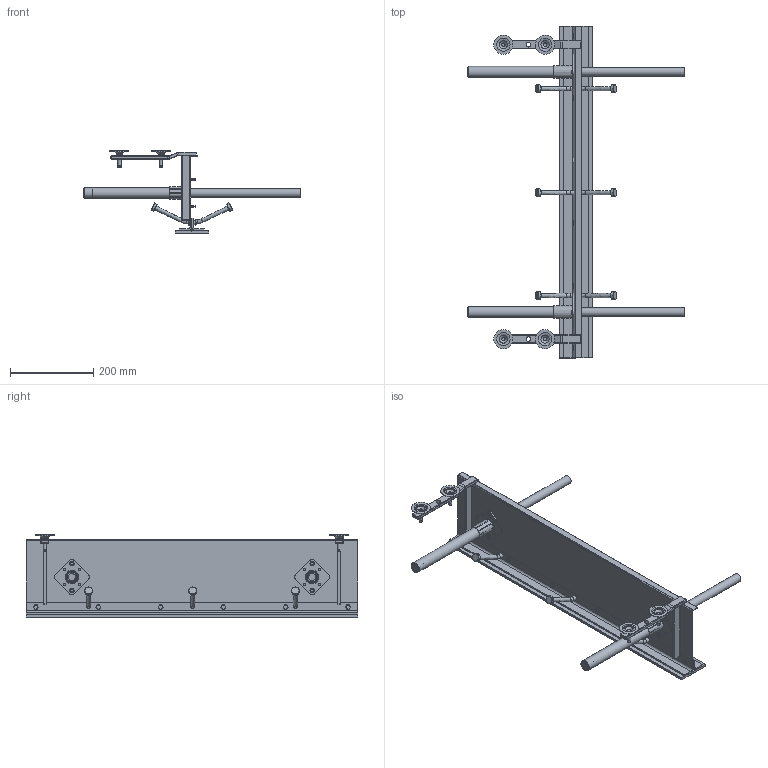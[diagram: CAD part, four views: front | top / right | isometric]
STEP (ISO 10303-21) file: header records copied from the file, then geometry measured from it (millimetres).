
FILE_DESCRIPTION(/* description */ (''),/* implementation_level */ '2;1');
FILE_NAME(/* name */ 'C:\Users\MW\Desktop\Guggenmoos\Herkules ERL\Herkules ERL\Herkules ERL.stp',/* time_stamp */ '2019-09-11T11:28:35+02:00',/* author */ ('MW'),/* organization */ (''),/* preprocessor_version */ 'ST-DEVELOPER v16.5',/* originating_system */ 'Autodesk Inventor 2017',/* authorisation */ '');
FILE_SCHEMA (('AUTOMOTIVE_DESIGN { 1 0 10303 214 3 1 1 }'));
Length unit declared in the file: millimetre
Products named in the file (15): Herkules ER; Unterbau Herkules ER; Blech Herkules ER; Winkel Herkules ER; Leiste1; Leiste1_1; Flansch Herkules ER; Stellfuß Herkules ER; Rohr Herkules ER; Stopfen Herkules ER; 334014_8x16cr3; Stange Herkules ER; Verankerung Herkules ER; din_933_-_m6_x_14; DIN 934 M6
Assembly tree (41 placements, depth 2):
  Herkules ER
    Unterbau Herkules ER  x2
    Blech Herkules ER
    Winkel Herkules ER  x2
    Verankerung Herkules ER  x6
    Leiste1
    Leiste1_1
    Flansch Herkules ER  x2
    Rohr Herkules ER  x2
    Stopfen Herkules ER  x2
    Stange Herkules ER  x2
    Stellfuß Herkules ER  x4
    334014_8x16cr3  x4
    din_933_-_m6_x_14  x6
    DIN 934 M6  x6
Bounding box: 521.7 x 797 x 197.22 mm (x, y, z)
Volume: 1572687.3 mm3; surface area: 872547.1 mm2
Topology: 41 solids, 41 shells, 1022 faces, 2270 edges, 1374 vertices
Faces by surface type: plane 446, cylinder 268, cone 196, torus 62, sphere 32, bspline 18
Full cylindrical faces by diameter (mm): 3 x4, 4.5 x4, 4.8 x4, 4.917 x6, 5.5 x8, 6 x12, 6.5 x12, 6.8 x4, 8 x4, 8.9 x6, 10.5 x4, 11 x2, 17.3 x2, 19 x6, 20.5 x2, 21.6 x2, 22 x4, 26 x2, 46 x4
Entity records: 11222 total; most frequent: CARTESIAN_POINT 2208, DIRECTION 1916, ORIENTED_EDGE 1618, EDGE_CURVE 809, AXIS2_PLACEMENT_3D 750, VERTEX_POINT 535, EDGE_LOOP 498, LINE 416
